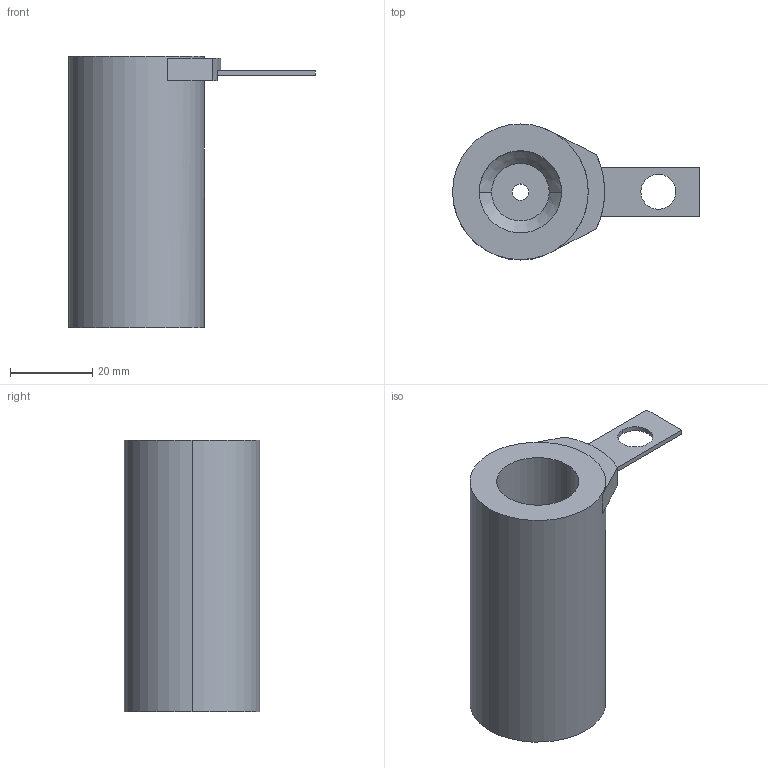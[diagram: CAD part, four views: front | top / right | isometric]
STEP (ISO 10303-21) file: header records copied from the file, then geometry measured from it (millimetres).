
FILE_DESCRIPTION(/* description */ (''),/* implementation_level */ '2;1');
FILE_NAME(/* name */ '3d_tus20-66_06258_r00.stp',/* time_stamp */ '2011-01-10T14:08:54+09:00',/* author */ ('MISUMI'),/* organization */ (''),/* preprocessor_version */ 'ST-DEVELOPER v11',/* originating_system */ 'UGS - NX 5.0',/* authorisation */ '');
FILE_SCHEMA (('CONFIG_CONTROL_DESIGN'));
Length unit declared in the file: millimetre
Products named in the file (1): 3d_tus20-66_06258_r00
Bounding box: 60.03 x 33 x 66 mm (x, y, z)
Volume: 38809.2 mm3; surface area: 13124.1 mm2
Topology: 2 solids, 2 shells, 28 faces, 67 edges, 44 vertices
Faces by surface type: plane 17, cylinder 9, cone 2
Entity records: 915 total; most frequent: DIRECTION 153, CARTESIAN_POINT 140, ORIENTED_EDGE 134, EDGE_CURVE 67, AXIS2_PLACEMENT_3D 57, VERTEX_POINT 44, LINE 39, VECTOR 39
